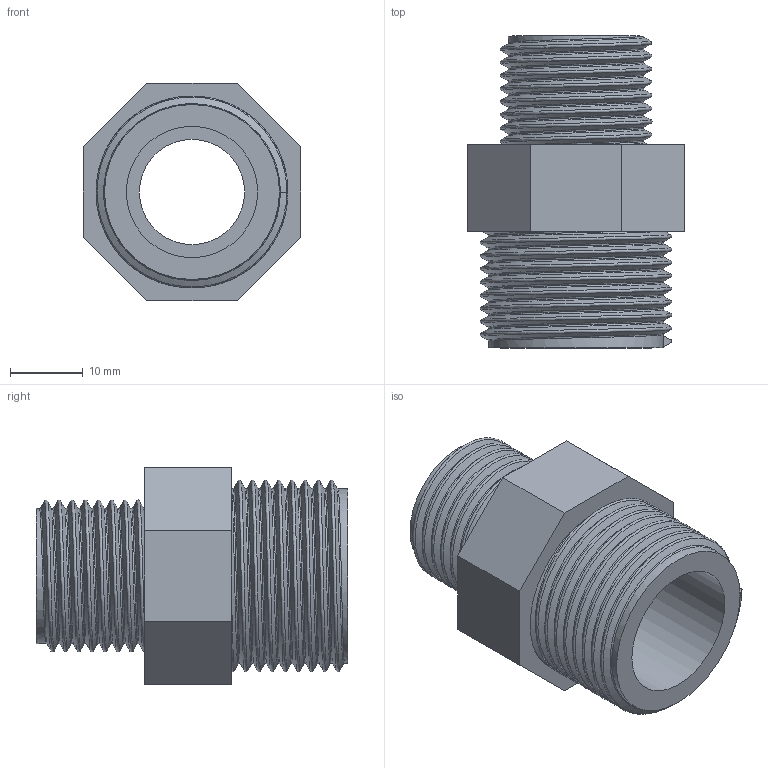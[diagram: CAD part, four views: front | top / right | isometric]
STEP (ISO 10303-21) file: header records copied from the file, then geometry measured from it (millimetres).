
FILE_DESCRIPTION(/* description */ ('PVC nipplo ridotto filettato BSP'),/* implementation_level */ '2;1');
FILE_NAME(/* name */ 'C:\Users\POLYPIPE\Desktop\DATASET INVENTOR\LIBRERIA EFFAST\RACCORDI 3DxWEB\RER\3D_RERNRE\3D_RERNRE025B.stp',/* time_stamp */ '2018-01-19T16:46:17+01:00',/* author */ ('POLYPIPE'),/* organization */ ('Polypipe Italia s.r.l.'),/* preprocessor_version */ 'ST-DEVELOPER v16.1',/* originating_system */ 'Autodesk Inventor 2016',/* authorisation */ '');
FILE_SCHEMA (('CONFIG_CONTROL_DESIGN'));
Length unit declared in the file: millimetre
Products named in the file (1): 3D_RERNRE
Bounding box: 30 x 43 x 30 mm (x, y, z)
Volume: 12410.1 mm3; surface area: 8154.8 mm2
Topology: 1 solids, 1 shells, 29 faces, 66 edges, 42 vertices
Faces by surface type: plane 15, bspline 10, cylinder 4
Full cylindrical faces by diameter (mm): 14.5 x1, 18.1 x1, 18.631 x1, 24.117 x1
Entity records: 7380 total; most frequent: CARTESIAN_POINT 6768, ORIENTED_EDGE 128, DIRECTION 94, EDGE_CURVE 64, VERTEX_POINT 42, EDGE_LOOP 36, AXIS2_PLACEMENT_3D 32, LINE 30
